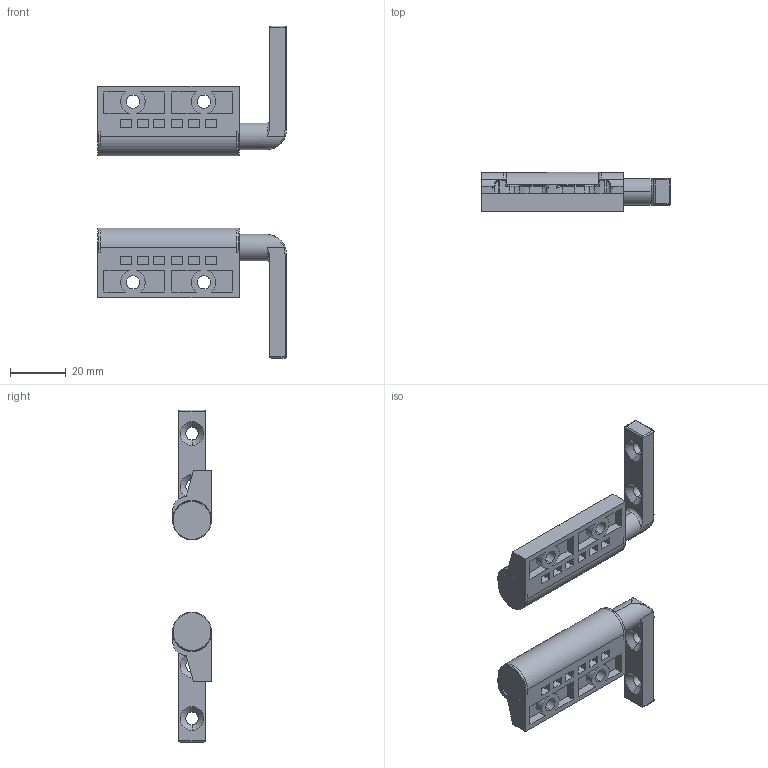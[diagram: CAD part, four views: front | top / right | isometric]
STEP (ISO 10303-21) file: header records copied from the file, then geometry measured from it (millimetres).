
FILE_DESCRIPTION (( 'STEP AP203' ), '1' );
FILE_NAME ('XG11-064.STEP', '2023-12-05T01:34:03', ( '' ), ( '' ), 'SwSTEP 2.0', 'SolidWorks 2020', '' );
FILE_SCHEMA (( 'CONFIG_CONTROL_DESIGN' ));
Length unit declared in the file: millimetre
Products named in the file (1): XG11-064
Bounding box: 68 x 14 x 119.5 mm (x, y, z)
Volume: 28642.3 mm3; surface area: 14757 mm2
Topology: 8 solids, 8 shells, 348 faces, 844 edges, 528 vertices
Faces by surface type: plane 158, cylinder 122, bspline 34, cone 16, torus 14, sphere 4
Entity records: 11425 total; most frequent: CARTESIAN_POINT 3425, ORIENTED_EDGE 1680, DIRECTION 1606, EDGE_CURVE 840, AXIS2_PLACEMENT_3D 565, VERTEX_POINT 528, LINE 476, VECTOR 476
